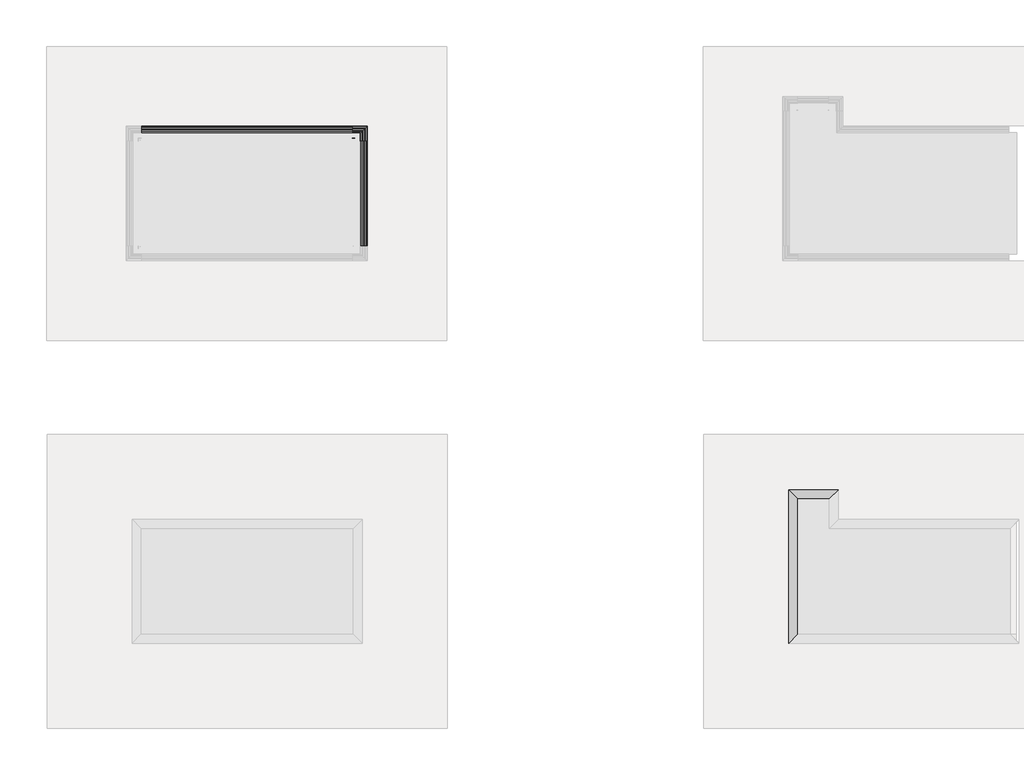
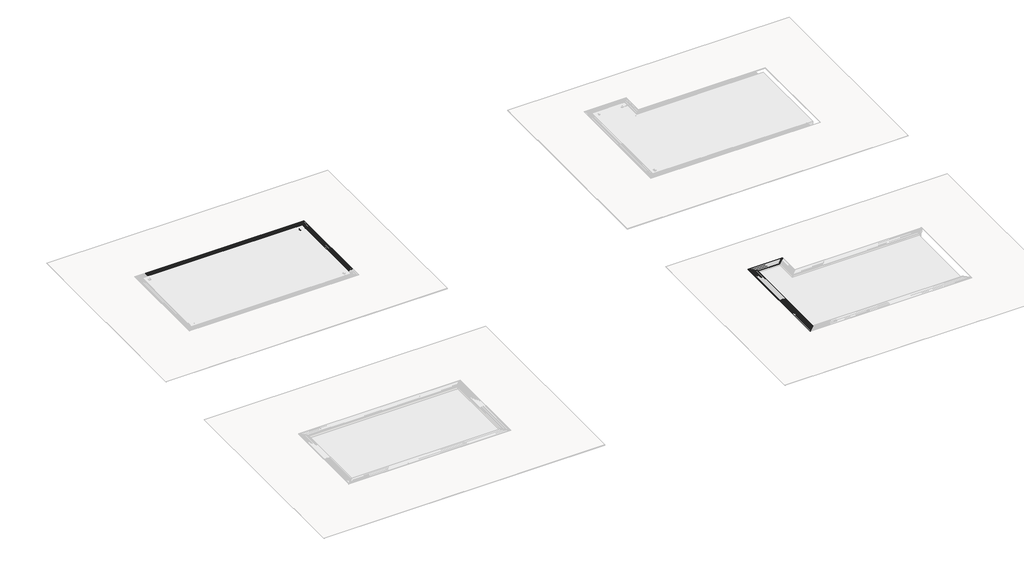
# One storey, part 4 of 8: 14 proxies.
"""IFC4 building model written with IfcOpenShell, lengths in millimetres."""

from ifc_helpers import new_model, si_unit, point, frame, frame_2d, origin, place, context, project, spatial, polyline, circle_curve, trimmed, segment, composite_curve, outline, extrude, faceted_brep, transform, mapped, element, save
from components import roca_polar_33x4cm_adeb31d8, roca_polar_33x4cm_c740a98f, roca_polar_33x4cm_f0a25715, roca_polar_4x4cm_b0f7cce5, roca_polar_angulo_33x33cm_rejilla_24_5x33cm_6b5bcf94

model = new_model("IFC4")

# Units and contexts
model_context = context("Model", 3, world=origin())
ifc_project = project(units=[si_unit("LENGTHUNIT", "METRE", prefix="MILLI")], contexts=[model_context])

# Site, building, storey
site = spatial("IfcSite", under=ifc_project)
building = spatial("IfcBuilding", under=site)
storey = spatial("IfcBuildingStorey", under=building, Name="EXAGRES_Serie ROCA POLAR_Piscinas_ejemplo", Elevation=14000.0)

# Proxies
placement = place(None, origin())
element("IfcBuildingElementProxy", 1, Name="Wall Sweeps", at=placement, inside=storey, context=model_context, shape_type="SweptSolid", body=[
    extrude(outline(composite_curve([segment(polyline([(-5147.8185886, 14015.0), (-5152.8185886, 14015.0)]), True, "CONTINUOUS"), segment(trimmed(circle_curve(frame_2d((-5152.8185886, 14000.0)), 15.0), [point((-5152.8185886, 14015.0))], [point((-5167.8185886, 14000.0))], True, "CARTESIAN"), True, "CONTINUOUS"), segment(polyline([(-5167.8185886, 14000.0), (-5227.8185886, 14000.0)]), True, "CONTINUOUS"), segment(trimmed(circle_curve(frame_2d((-5242.8185886, 14000.0)), 15.0), [point((-5227.8185886, 14000.0))], [point((-5242.8185886, 14015.0))], True, "CARTESIAN"), True, "CONTINUOUS"), segment(polyline([(-5242.8185886, 14015.0), (-5247.8185886, 14015.0)]), True, "CONTINUOUS"), segment(trimmed(circle_curve(frame_2d((-5247.8185886, 14000.0)), 15.0), [point((-5247.8185886, 14015.0))], [point((-5262.8185886, 14000.0))], True, "CARTESIAN"), True, "CONTINUOUS"), segment(polyline([(-5262.8185886, 14000.0), (-5323.3185886, 14000.0), (-5323.3185886, 14011.0)]), True, "CONTINUOUS"), segment(trimmed(circle_curve(frame_2d((-5327.0685886, 14011.0)), 3.75), [point((-5323.3185886, 14011.0))], [point((-5330.8185886, 14011.0))], True, "CARTESIAN"), True, "CONTINUOUS"), segment(polyline([(-5330.8185886, 14011.0), (-5330.8185886, 14000.0), (-5342.8185886, 14000.0), (-5342.8185886, 14015.0), (-5336.3185886, 14030.0), (-5296.8185886, 14030.0), (-5297.8185886, 14019.0), (-5302.8185886, 14019.0), (-5302.8185886, 14011.0), (-5282.8185886, 14011.0), (-5282.8185886, 14019.0), (-5287.8185886, 14019.0), (-5288.8185886, 14030.0), (-5249.3185886, 14030.0), (-5249.3185886, 14025.0), (-5241.3185886, 14025.0), (-5241.3185886, 14030.0), (-5201.8185886, 14030.0), (-5202.8185886, 14019.0), (-5207.8185886, 14019.0), (-5207.8185886, 14011.0), (-5187.8185886, 14011.0), (-5187.8185886, 14019.0), (-5192.8185886, 14019.0), (-5193.8185886, 14030.0), (-5154.3185886, 14030.0), (-5154.3185886, 14025.0), (-5146.3185886, 14025.0), (-5146.3185886, 14030.0), (-5106.8185886, 14030.0), (-5106.8185886, 14019.0), (-5125.3185886, 14019.0), (-5125.3185886, 14011.0), (-5102.8185886, 14011.0), (-5102.8185886, 14000.0), (-5132.8185886, 14000.0)]), True, "CONTINUOUS"), segment(trimmed(circle_curve(frame_2d((-5147.8185886, 14000.0)), 15.0), [point((-5132.8185886, 14000.0))], [point((-5147.8185886, 14015.0))], True, "CARTESIAN"), True, "CONTINUOUS")], self_intersect=False)), frame((-11634.1797103, 0.0, 0.0), z_axis=(1.0, 0.0, 0.0), x_axis=(0.0, 1.0, 0.0)), (0.0, 0.0, 1.0), 7952.2),
])
element("IfcBuildingElementProxy", 2, Name="Wall Sweeps", at=placement, inside=storey, context=model_context, shape_type="SweptSolid", body=[
    extrude(outline(polyline([(-5597.8185886, 13546.2592037), (-5597.8185886, 14000.0), (-5347.8185886, 14000.0), (-5347.8185886, 13750.0), (-5097.8185886, 13750.0), (-5097.8185886, 13644.7108891), (-5397.8185886, 13546.2592037), (-5597.8185886, 13546.2592037)])), frame((-11634.1797103, 0.0, 0.0), z_axis=(1.0, 0.0, 0.0), x_axis=(0.0, 1.0, 0.0)), (0.0, 0.0, 1.0), 7952.2),
])
element("IfcBuildingElementProxy", 3, Name="Wall Sweeps", at=placement, inside=storey, context=model_context, shape_type="SweptSolid", body=[
    extrude(outline(polyline([(13800.0, -3348.0797103), (14000.0, -3348.0797103), (14000.0, -3378.0797103), (13750.0, -3378.0797103), (13750.0, -3128.0797103), (14000.0, -3128.0797103), (14000.0, -3158.0797103), (13800.0, -3158.0797103), (13800.0, -3348.0797103)])), frame((0.0, -9603.9185886, 0.0), z_axis=(0.0, 1.0, 0.0), x_axis=(0.0, 0.0, 1.0)), (0.0, 0.0, 1.0), 3952.2),
])
element("IfcBuildingElementProxy", 4, Name="Wall Sweeps", at=placement, inside=storey, context=model_context, shape_type="SweptSolid", body=[
    extrude(outline(composite_curve([segment(trimmed(circle_curve(frame_2d((14000.0, -3178.0797103)), 15.0), [point((14015.0, -3178.0797103))], [point((14000.0, -3163.0797103))], True, "CARTESIAN"), True, "CONTINUOUS"), segment(polyline([(14000.0, -3163.0797103), (14000.0, -3133.0797103), (14011.0, -3133.0797103), (14011.0, -3155.5797103), (14019.0, -3155.5797103), (14019.0, -3137.0797103), (14030.0, -3137.0797103), (14030.0, -3176.5797103), (14025.0, -3176.5797103), (14025.0, -3184.5797103), (14030.0, -3184.5797103), (14030.0, -3224.0797103), (14019.0, -3223.0797103), (14019.0, -3218.0797103), (14011.0, -3218.0797103), (14011.0, -3238.0797103), (14019.0, -3238.0797103), (14019.0, -3233.0797103), (14030.0, -3232.0797103), (14030.0, -3271.5797103), (14025.0, -3271.5797103), (14025.0, -3279.5797103), (14030.0, -3279.5797103), (14030.0, -3319.0797103), (14019.0, -3318.0797103), (14019.0, -3313.0797103), (14011.0, -3313.0797103), (14011.0, -3333.0797103), (14019.0, -3333.0797103), (14019.0, -3328.0797103), (14030.0, -3327.0797103), (14030.0, -3366.5797103), (14015.0, -3373.0797103), (14000.0, -3373.0797103), (14000.0, -3361.0797103), (14011.0, -3361.0797103)]), True, "CONTINUOUS"), segment(trimmed(circle_curve(frame_2d((14011.0, -3357.3297103)), 3.75), [point((14011.0, -3361.0797103))], [point((14011.0, -3353.5797103))], True, "CARTESIAN"), True, "CONTINUOUS"), segment(polyline([(14011.0, -3353.5797103), (14000.0, -3353.5797103), (14000.0, -3293.0797103)]), True, "CONTINUOUS"), segment(trimmed(circle_curve(frame_2d((14000.0, -3278.0797103)), 15.0), [point((14000.0, -3293.0797103))], [point((14015.0, -3278.0797103))], True, "CARTESIAN"), True, "CONTINUOUS"), segment(polyline([(14015.0, -3278.0797103), (14015.0, -3273.0797103)]), True, "CONTINUOUS"), segment(trimmed(circle_curve(frame_2d((14000.0, -3273.0797103)), 15.0), [point((14015.0, -3273.0797103))], [point((14000.0, -3258.0797103))], True, "CARTESIAN"), True, "CONTINUOUS"), segment(polyline([(14000.0, -3258.0797103), (14000.0, -3198.0797103)]), True, "CONTINUOUS"), segment(trimmed(circle_curve(frame_2d((14000.0, -3183.0797103)), 15.0), [point((14000.0, -3198.0797103))], [point((14015.0, -3183.0797103))], True, "CARTESIAN"), True, "CONTINUOUS"), segment(polyline([(14015.0, -3183.0797103), (14015.0, -3178.0797103)]), True, "CONTINUOUS")], self_intersect=False)), frame((0.0, -9603.9185886, 0.0), z_axis=(0.0, 1.0, 0.0), x_axis=(0.0, 0.0, 1.0)), (0.0, 0.0, 1.0), 3952.2),
])
element("IfcBuildingElementProxy", 5, Name="Wall Sweeps", at=placement, inside=storey, context=model_context, shape_type="SweptSolid", body=[
    extrude(outline(polyline([(13546.2592037, -3628.0797103), (13546.2592037, -3428.0797103), (13644.7108891, -3128.0797103), (13750.0, -3128.0797103), (13750.0, -3378.0797103), (14000.0, -3378.0797103), (14000.0, -3628.0797103), (13546.2592037, -3628.0797103)])), frame((0.0, -9603.9185886, 0.0), z_axis=(0.0, 1.0, 0.0), x_axis=(0.0, 0.0, 1.0)), (0.0, 0.0, 1.0), 3952.2),
])
element("IfcBuildingElementProxy", 6, Name="Wall Sweeps", at=placement, inside=storey, context=model_context, shape_type="Brep", body=[
    faceted_brep([(13046.9426749, -24249.0914606, 14000.0), (13059.9426749, -24236.0914606, 14000.0), (13059.9426749, -24236.0914606, 14033.0), (12729.9426749, -24566.0914606, 14033.0), (12729.9426749, -24566.0914606, 14021.0), (12735.9426749, -24560.0914606, 14021.0), (12735.9426749, -24560.0914606, 14022.0), (12739.9426749, -24556.0914606, 14022.0), (12739.9426749, -24556.0914606, 14021.0), (12745.9426749, -24550.0914606, 14021.0), (12745.9426749, -24550.0914606, 14022.0), (12749.9426749, -24546.0914606, 14022.0), (12749.9426749, -24546.0914606, 14021.0), (12755.9426749, -24540.0914606, 14021.0), (12755.9426749, -24540.0914606, 14022.0), (12759.9426749, -24536.0914606, 14022.0), (12759.9426749, -24536.0914606, 14021.0), (12765.9426749, -24530.0914606, 14021.0), (12765.9426749, -24530.0914606, 14022.0), (12769.9426749, -24526.0914606, 14022.0), (12769.9426749, -24526.0914606, 14021.0), (12775.9426749, -24520.0914606, 14021.0), (12775.9426749, -24520.0914606, 14022.0), (12779.9426749, -24516.0914606, 14022.0), (12779.9426749, -24516.0914606, 14021.0), (12785.9426749, -24510.0914606, 14021.0), (12785.9426749, -24510.0914606, 14022.0), (12789.9426749, -24506.0914606, 14022.0), (12789.9426749, -24506.0914606, 14021.0), (12795.9426749, -24500.0914606, 14021.0), (12795.9426749, -24500.0914606, 14022.0), (12799.9426749, -24496.0914606, 14022.0), (12799.9426749, -24496.0914606, 14021.0), (12805.9426749, -24490.0914606, 14021.0), (12805.9426749, -24490.0914606, 14022.0), (12809.9426749, -24486.0914606, 14022.0), (12809.9426749, -24486.0914606, 14021.0), (12815.9426749, -24480.0914606, 14021.0), (12815.9426749, -24480.0914606, 14022.0), (12819.9426749, -24476.0914606, 14022.0), (12819.9426749, -24476.0914606, 14021.0), (12825.9426749, -24470.0914606, 14021.0), (12825.9426749, -24470.0914606, 14022.0), (12829.9426749, -24466.0914606, 14022.0), (12829.9426749, -24466.0914606, 14021.0), (12835.9426749, -24460.0914606, 14021.0), (12835.9426749, -24460.0914606, 14022.0), (12839.9426749, -24456.0914606, 14022.0), (12839.9426749, -24456.0914606, 14021.0), (12845.9426749, -24450.0914606, 14021.0), (12845.9426749, -24450.0914606, 14022.0), (12849.9426749, -24446.0914606, 14022.0), (12849.9426749, -24446.0914606, 14021.0), (12855.9426749, -24440.0914606, 14021.0), (12855.9426749, -24440.0914606, 14022.0), (12859.9426749, -24436.0914606, 14022.0), (12859.9426749, -24436.0914606, 14021.0), (12865.9426749, -24430.0914606, 14021.0), (12865.9426749, -24430.0914606, 14022.0), (12869.9426749, -24426.0914606, 14022.0), (12869.9426749, -24426.0914606, 14021.0), (12875.9426749, -24420.0914606, 14021.0), (12875.9426749, -24420.0914606, 14022.0), (12879.9426749, -24416.0914606, 14022.0), (12879.9426749, -24416.0914606, 14021.0), (12885.9426749, -24410.0914606, 14021.0), (12885.9426749, -24410.0914606, 14022.0), (12889.9426749, -24406.0914606, 14022.0), (12889.9426749, -24406.0914606, 14021.0), (12895.9426749, -24400.0914606, 14021.0), (12895.9426749, -24400.0914606, 14022.0), (12899.9426749, -24396.0914606, 14022.0), (12899.9426749, -24396.0914606, 14021.0), (12905.9426749, -24390.0914606, 14021.0), (12905.9426749, -24390.0914606, 14022.0), (12909.9426749, -24386.0914606, 14022.0), (12909.9426749, -24386.0914606, 14021.0), (12915.9426749, -24380.0914606, 14021.0), (12915.9426749, -24380.0914606, 14022.0), (12919.9426749, -24376.0914606, 14022.0), (12919.9426749, -24376.0914606, 14021.0), (12925.9426749, -24370.0914606, 14021.0), (12925.9426749, -24370.0914606, 14022.0), (12929.9426749, -24366.0914606, 14022.0), (12929.9426749, -24366.0914606, 14021.0), (12935.9426749, -24360.0914606, 14021.0), (12935.9426749, -24360.0914606, 14022.0), (12939.9426749, -24356.0914606, 14022.0), (12939.9426749, -24356.0914606, 14021.0), (12945.9426749, -24350.0914606, 14021.0), (12945.9426749, -24350.0914606, 14022.0), (12949.9426749, -24346.0914606, 14022.0), (12949.9426749, -24346.0914606, 14021.0), (12955.9426749, -24340.0914606, 14021.0), (12955.9426749, -24340.0914606, 14022.0), (12959.9426749, -24336.0914606, 14022.0), (12959.9426749, -24336.0914606, 14021.0), (12965.9426749, -24330.0914606, 14021.0), (12965.9426749, -24330.0914606, 14022.0), (12969.9426749, -24326.0914606, 14022.0), (12969.9426749, -24326.0914606, 14021.0), (12975.9426749, -24320.0914606, 14021.0), (12975.9426749, -24320.0914606, 14022.0), (12979.9426749, -24316.0914606, 14022.0), (12979.9426749, -24316.0914606, 14021.0), (12985.9426749, -24310.0914606, 14021.0), (12985.9426749, -24310.0914606, 14022.0), (12989.9426749, -24306.0914606, 14022.0), (12989.9426749, -24306.0914606, 14021.0), (12995.9426749, -24300.0914606, 14021.0), (12995.9426749, -24300.0914606, 14022.0), (12999.9426749, -24296.0914606, 14022.0), (12999.9426749, -24296.0914606, 14021.0), (13005.9426749, -24290.0914606, 14021.0), (13005.9426749, -24290.0914606, 14022.0), (13009.9426749, -24286.0914606, 14022.0), (13009.9426749, -24286.0914606, 14021.0), (13015.9426749, -24280.0914606, 14021.0), (13015.9426749, -24280.0914606, 14022.0), (13019.9426749, -24276.0914606, 14022.0), (13019.9426749, -24276.0914606, 14021.0), (13025.9426749, -24270.0914606, 14021.0), (13025.9426749, -24270.0914606, 14022.0), (13029.9426749, -24266.0914606, 14022.0), (13029.9426749, -24266.0914606, 14021.0), (13035.9426749, -24260.0914606, 14021.0), (13035.9426749, -24260.0914606, 14022.0), (13039.9426749, -24256.0914606, 14022.0), (13039.9426749, -24256.0914606, 14021.0), (13046.9426749, -24249.0914606, 14021.0), (13046.9426749, -24249.0914606, 14014.0), (13047.9426749, -24248.0914606, 14014.0), (13047.9426749, -24248.0914606, 14008.0), (13046.9426749, -24249.0914606, 14008.0), (13046.9426749, -19103.0914606, 14000.0), (13046.9426749, -19103.0914606, 14008.0), (13047.9426749, -19104.0914606, 14008.0), (13047.9426749, -19104.0914606, 14014.0), (13046.9426749, -19103.0914606, 14014.0), (13046.9426749, -19103.0914606, 14021.0), (13039.9426749, -19096.0914606, 14021.0), (13039.9426749, -19096.0914606, 14022.0), (13035.9426749, -19092.0914606, 14022.0), (13035.9426749, -19092.0914606, 14021.0), (13029.9426749, -19086.0914606, 14021.0), (13029.9426749, -19086.0914606, 14022.0), (13025.9426749, -19082.0914606, 14022.0), (13025.9426749, -19082.0914606, 14021.0), (13019.9426749, -19076.0914606, 14021.0), (13019.9426749, -19076.0914606, 14022.0), (13015.9426749, -19072.0914606, 14022.0), (13015.9426749, -19072.0914606, 14021.0), (13009.9426749, -19066.0914606, 14021.0), (13009.9426749, -19066.0914606, 14022.0), (13005.9426749, -19062.0914606, 14022.0), (13005.9426749, -19062.0914606, 14021.0), (12999.9426749, -19056.0914606, 14021.0), (12999.9426749, -19056.0914606, 14022.0), (12995.9426749, -19052.0914606, 14022.0), (12995.9426749, -19052.0914606, 14021.0), (12989.9426749, -19046.0914606, 14021.0), (12989.9426749, -19046.0914606, 14022.0), (12985.9426749, -19042.0914606, 14022.0), (12985.9426749, -19042.0914606, 14021.0), (12979.9426749, -19036.0914606, 14021.0), (12979.9426749, -19036.0914606, 14022.0), (12975.9426749, -19032.0914606, 14022.0), (12975.9426749, -19032.0914606, 14021.0), (12969.9426749, -19026.0914606, 14021.0), (12969.9426749, -19026.0914606, 14022.0), (12965.9426749, -19022.0914606, 14022.0), (12965.9426749, -19022.0914606, 14021.0), (12959.9426749, -19016.0914606, 14021.0), (12959.9426749, -19016.0914606, 14022.0), (12955.9426749, -19012.0914606, 14022.0), (12955.9426749, -19012.0914606, 14021.0), (12949.9426749, -19006.0914606, 14021.0), (12949.9426749, -19006.0914606, 14022.0), (12945.9426749, -19002.0914606, 14022.0), (12945.9426749, -19002.0914606, 14021.0), (12939.9426749, -18996.0914606, 14021.0), (12939.9426749, -18996.0914606, 14022.0), (12935.9426749, -18992.0914606, 14022.0), (12935.9426749, -18992.0914606, 14021.0), (12929.9426749, -18986.0914606, 14021.0), (12929.9426749, -18986.0914606, 14022.0), (12925.9426749, -18982.0914606, 14022.0), (12925.9426749, -18982.0914606, 14021.0), (12919.9426749, -18976.0914606, 14021.0), (12919.9426749, -18976.0914606, 14022.0), (12915.9426749, -18972.0914606, 14022.0), (12915.9426749, -18972.0914606, 14021.0), (12909.9426749, -18966.0914606, 14021.0), (12909.9426749, -18966.0914606, 14022.0), (12905.9426749, -18962.0914606, 14022.0), (12905.9426749, -18962.0914606, 14021.0), (12899.9426749, -18956.0914606, 14021.0), (12899.9426749, -18956.0914606, 14022.0), (12895.9426749, -18952.0914606, 14022.0), (12895.9426749, -18952.0914606, 14021.0), (12889.9426749, -18946.0914606, 14021.0), (12889.9426749, -18946.0914606, 14022.0), (12885.9426749, -18942.0914606, 14022.0), (12885.9426749, -18942.0914606, 14021.0), (12879.9426749, -18936.0914606, 14021.0), (12879.9426749, -18936.0914606, 14022.0), (12875.9426749, -18932.0914606, 14022.0), (12875.9426749, -18932.0914606, 14021.0), (12869.9426749, -18926.0914606, 14021.0), (12869.9426749, -18926.0914606, 14022.0), (12865.9426749, -18922.0914606, 14022.0), (12865.9426749, -18922.0914606, 14021.0), (12859.9426749, -18916.0914606, 14021.0), (12859.9426749, -18916.0914606, 14022.0), (12855.9426749, -18912.0914606, 14022.0), (12855.9426749, -18912.0914606, 14021.0), (12849.9426749, -18906.0914606, 14021.0), (12849.9426749, -18906.0914606, 14022.0), (12845.9426749, -18902.0914606, 14022.0), (12845.9426749, -18902.0914606, 14021.0), (12839.9426749, -18896.0914606, 14021.0), (12839.9426749, -18896.0914606, 14022.0), (12835.9426749, -18892.0914606, 14022.0), (12835.9426749, -18892.0914606, 14021.0), (12829.9426749, -18886.0914606, 14021.0), (12829.9426749, -18886.0914606, 14022.0), (12825.9426749, -18882.0914606, 14022.0), (12825.9426749, -18882.0914606, 14021.0), (12819.9426749, -18876.0914606, 14021.0), (12819.9426749, -18876.0914606, 14022.0), (12815.9426749, -18872.0914606, 14022.0), (12815.9426749, -18872.0914606, 14021.0), (12809.9426749, -18866.0914606, 14021.0), (12809.9426749, -18866.0914606, 14022.0), (12805.9426749, -18862.0914606, 14022.0), (12805.9426749, -18862.0914606, 14021.0), (12799.9426749, -18856.0914606, 14021.0), (12799.9426749, -18856.0914606, 14022.0), (12795.9426749, -18852.0914606, 14022.0), (12795.9426749, -18852.0914606, 14021.0), (12789.9426749, -18846.0914606, 14021.0), (12789.9426749, -18846.0914606, 14022.0), (12785.9426749, -18842.0914606, 14022.0), (12785.9426749, -18842.0914606, 14021.0), (12779.9426749, -18836.0914606, 14021.0), (12779.9426749, -18836.0914606, 14022.0), (12775.9426749, -18832.0914606, 14022.0), (12775.9426749, -18832.0914606, 14021.0), (12769.9426749, -18826.0914606, 14021.0), (12769.9426749, -18826.0914606, 14022.0), (12765.9426749, -18822.0914606, 14022.0), (12765.9426749, -18822.0914606, 14021.0), (12759.9426749, -18816.0914606, 14021.0), (12759.9426749, -18816.0914606, 14022.0), (12755.9426749, -18812.0914606, 14022.0), (12755.9426749, -18812.0914606, 14021.0), (12749.9426749, -18806.0914606, 14021.0), (12749.9426749, -18806.0914606, 14022.0), (12745.9426749, -18802.0914606, 14022.0), (12745.9426749, -18802.0914606, 14021.0), (12739.9426749, -18796.0914606, 14021.0), (12739.9426749, -18796.0914606, 14022.0), (12735.9426749, -18792.0914606, 14022.0), (12735.9426749, -18792.0914606, 14021.0), (12729.9426749, -18786.0914606, 14021.0), (12729.9426749, -18786.0914606, 14033.0), (13059.9426749, -19116.0914606, 14033.0), (13059.9426749, -19116.0914606, 14000.0)], [[[0, 1, 2, 3, 4, 5, 6, 7, 8, 9, 10, 11, 12, 13, 14, 15, 16, 17, 18, 19, 20, 21, 22, 23, 24, 25, 26, 27, 28, 29, 30, 31, 32, 33, 34, 35, 36, 37, 38, 39, 40, 41, 42, 43, 44, 45, 46, 47, 48, 49, 50, 51, 52, 53, 54, 55, 56, 57, 58, 59, 60, 61, 62, 63, 64, 65, 66, 67, 68, 69, 70, 71, 72, 73, 74, 75, 76, 77, 78, 79, 80, 81, 82, 83, 84, 85, 86, 87, 88, 89, 90, 91, 92, 93, 94, 95, 96, 97, 98, 99, 100, 101, 102, 103, 104, 105, 106, 107, 108, 109, 110, 111, 112, 113, 114, 115, 116, 117, 118, 119, 120, 121, 122, 123, 124, 125, 126, 127, 128, 129, 130, 131, 132, 133]], [[134, 135, 136, 137, 138, 139, 140, 141, 142, 143, 144, 145, 146, 147, 148, 149, 150, 151, 152, 153, 154, 155, 156, 157, 158, 159, 160, 161, 162, 163, 164, 165, 166, 167, 168, 169, 170, 171, 172, 173, 174, 175, 176, 177, 178, 179, 180, 181, 182, 183, 184, 185, 186, 187, 188, 189, 190, 191, 192, 193, 194, 195, 196, 197, 198, 199, 200, 201, 202, 203, 204, 205, 206, 207, 208, 209, 210, 211, 212, 213, 214, 215, 216, 217, 218, 219, 220, 221, 222, 223, 224, 225, 226, 227, 228, 229, 230, 231, 232, 233, 234, 235, 236, 237, 238, 239, 240, 241, 242, 243, 244, 245, 246, 247, 248, 249, 250, 251, 252, 253, 254, 255, 256, 257, 258, 259, 260, 261, 262, 263, 264, 265, 266, 267]], [[1, 0, 134, 267]], [[2, 1, 267, 266]], [[3, 2, 266, 265]], [[4, 3, 265, 264]], [[5, 4, 264, 263]], [[6, 5, 263, 262]], [[7, 6, 262, 261]], [[8, 7, 261, 260]], [[9, 8, 260, 259]], [[10, 9, 259, 258]], [[11, 10, 258, 257]], [[12, 11, 257, 256]], [[13, 12, 256, 255]], [[14, 13, 255, 254]], [[15, 14, 254, 253]], [[16, 15, 253, 252]], [[17, 16, 252, 251]], [[18, 17, 251, 250]], [[19, 18, 250, 249]], [[20, 19, 249, 248]], [[21, 20, 248, 247]], [[22, 21, 247, 246]], [[23, 22, 246, 245]], [[24, 23, 245, 244]], [[25, 24, 244, 243]], [[26, 25, 243, 242]], [[27, 26, 242, 241]], [[28, 27, 241, 240]], [[29, 28, 240, 239]], [[30, 29, 239, 238]], [[31, 30, 238, 237]], [[32, 31, 237, 236]], [[33, 32, 236, 235]], [[34, 33, 235, 234]], [[35, 34, 234, 233]], [[36, 35, 233, 232]], [[37, 36, 232, 231]], [[38, 37, 231, 230]], [[39, 38, 230, 229]], [[40, 39, 229, 228]], [[41, 40, 228, 227]], [[42, 41, 227, 226]], [[43, 42, 226, 225]], [[44, 43, 225, 224]], [[45, 44, 224, 223]], [[46, 45, 223, 222]], [[47, 46, 222, 221]], [[48, 47, 221, 220]], [[49, 48, 220, 219]], [[50, 49, 219, 218]], [[51, 50, 218, 217]], [[52, 51, 217, 216]], [[53, 52, 216, 215]], [[54, 53, 215, 214]], [[55, 54, 214, 213]], [[56, 55, 213, 212]], [[57, 56, 212, 211]], [[58, 57, 211, 210]], [[59, 58, 210, 209]], [[60, 59, 209, 208]], [[61, 60, 208, 207]], [[62, 61, 207, 206]], [[63, 62, 206, 205]], [[64, 63, 205, 204]], [[65, 64, 204, 203]], [[66, 65, 203, 202]], [[67, 66, 202, 201]], [[68, 67, 201, 200]], [[69, 68, 200, 199]], [[70, 69, 199, 198]], [[71, 70, 198, 197]], [[72, 71, 197, 196]], [[73, 72, 196, 195]], [[74, 73, 195, 194]], [[75, 74, 194, 193]], [[76, 75, 193, 192]], [[77, 76, 192, 191]], [[78, 77, 191, 190]], [[79, 78, 190, 189]], [[80, 79, 189, 188]], [[81, 80, 188, 187]], [[82, 81, 187, 186]], [[83, 82, 186, 185]], [[84, 83, 185, 184]], [[85, 84, 184, 183]], [[86, 85, 183, 182]], [[87, 86, 182, 181]], [[88, 87, 181, 180]], [[89, 88, 180, 179]], [[90, 89, 179, 178]], [[91, 90, 178, 177]], [[92, 91, 177, 176]], [[93, 92, 176, 175]], [[94, 93, 175, 174]], [[95, 94, 174, 173]], [[96, 95, 173, 172]], [[97, 96, 172, 171]], [[98, 97, 171, 170]], [[99, 98, 170, 169]], [[100, 99, 169, 168]], [[101, 100, 168, 167]], [[102, 101, 167, 166]], [[103, 102, 166, 165]], [[104, 103, 165, 164]], [[105, 104, 164, 163]], [[106, 105, 163, 162]], [[107, 106, 162, 161]], [[108, 107, 161, 160]], [[109, 108, 160, 159]], [[110, 109, 159, 158]], [[111, 110, 158, 157]], [[112, 111, 157, 156]], [[113, 112, 156, 155]], [[114, 113, 155, 154]], [[115, 114, 154, 153]], [[116, 115, 153, 152]], [[117, 116, 152, 151]], [[118, 117, 151, 150]], [[119, 118, 150, 149]], [[120, 119, 149, 148]], [[121, 120, 148, 147]], [[122, 121, 147, 146]], [[123, 122, 146, 145]], [[124, 123, 145, 144]], [[125, 124, 144, 143]], [[126, 125, 143, 142]], [[127, 126, 142, 141]], [[128, 127, 141, 140]], [[129, 128, 140, 139]], [[130, 129, 139, 138]], [[131, 130, 138, 137]], [[132, 131, 137, 136]], [[133, 132, 136, 135]], [[0, 133, 135, 134]]]),
])
element("IfcBuildingElementProxy", 7, Name="Wall Sweeps", at=placement, inside=storey, context=model_context, shape_type="Brep", body=[
    faceted_brep([(12739.9426749, -24556.0914606, 13818.74), (12834.9426749, -24461.0914606, 13818.74), (13044.9426749, -24251.0914606, 13818.74), (13044.9426749, -24251.0914606, 14000.0), (13044.9426749, -24251.0914606, 14018.74), (12739.9426749, -24556.0914606, 14018.74), (12739.9426749, -18796.0914606, 13818.74), (12739.9426749, -18796.0914606, 14018.74), (13044.9426749, -19101.0914606, 14018.74), (13044.9426749, -19101.0914606, 14000.0), (13044.9426749, -19101.0914606, 13818.74), (12834.9426749, -18891.0914606, 13818.74)], [[[0, 1, 2, 3, 4, 5]], [[6, 7, 8, 9, 10, 11]], [[4, 3, 2, 10, 9, 8]], [[2, 1, 0, 6, 11, 10]], [[5, 4, 8, 7]], [[0, 5, 7, 6]]]),
])
element("IfcBuildingElementProxy", 8, Name="Wall Sweeps", at=placement, inside=storey, context=model_context, shape_type="Brep", body=[
    faceted_brep([(13046.9426749, -19103.0914606, 14000.0), (13059.9426749, -19116.0914606, 14000.0), (13059.9426749, -19116.0914606, 14033.0), (12729.9426749, -18786.0914606, 14033.0), (12729.9426749, -18786.0914606, 14021.0), (12735.9426749, -18792.0914606, 14021.0), (12735.9426749, -18792.0914606, 14022.0), (12739.9426749, -18796.0914606, 14022.0), (12739.9426749, -18796.0914606, 14021.0), (12745.9426749, -18802.0914606, 14021.0), (12745.9426749, -18802.0914606, 14022.0), (12749.9426749, -18806.0914606, 14022.0), (12749.9426749, -18806.0914606, 14021.0), (12755.9426749, -18812.0914606, 14021.0), (12755.9426749, -18812.0914606, 14022.0), (12759.9426749, -18816.0914606, 14022.0), (12759.9426749, -18816.0914606, 14021.0), (12765.9426749, -18822.0914606, 14021.0), (12765.9426749, -18822.0914606, 14022.0), (12769.9426749, -18826.0914606, 14022.0), (12769.9426749, -18826.0914606, 14021.0), (12775.9426749, -18832.0914606, 14021.0), (12775.9426749, -18832.0914606, 14022.0), (12779.9426749, -18836.0914606, 14022.0), (12779.9426749, -18836.0914606, 14021.0), (12785.9426749, -18842.0914606, 14021.0), (12785.9426749, -18842.0914606, 14022.0), (12789.9426749, -18846.0914606, 14022.0), (12789.9426749, -18846.0914606, 14021.0), (12795.9426749, -18852.0914606, 14021.0), (12795.9426749, -18852.0914606, 14022.0), (12799.9426749, -18856.0914606, 14022.0), (12799.9426749, -18856.0914606, 14021.0), (12805.9426749, -18862.0914606, 14021.0), (12805.9426749, -18862.0914606, 14022.0), (12809.9426749, -18866.0914606, 14022.0), (12809.9426749, -18866.0914606, 14021.0), (12815.9426749, -18872.0914606, 14021.0), (12815.9426749, -18872.0914606, 14022.0), (12819.9426749, -18876.0914606, 14022.0), (12819.9426749, -18876.0914606, 14021.0), (12825.9426749, -18882.0914606, 14021.0), (12825.9426749, -18882.0914606, 14022.0), (12829.9426749, -18886.0914606, 14022.0), (12829.9426749, -18886.0914606, 14021.0), (12835.9426749, -18892.0914606, 14021.0), (12835.9426749, -18892.0914606, 14022.0), (12839.9426749, -18896.0914606, 14022.0), (12839.9426749, -18896.0914606, 14021.0), (12845.9426749, -18902.0914606, 14021.0), (12845.9426749, -18902.0914606, 14022.0), (12849.9426749, -18906.0914606, 14022.0), (12849.9426749, -18906.0914606, 14021.0), (12855.9426749, -18912.0914606, 14021.0), (12855.9426749, -18912.0914606, 14022.0), (12859.9426749, -18916.0914606, 14022.0), (12859.9426749, -18916.0914606, 14021.0), (12865.9426749, -18922.0914606, 14021.0), (12865.9426749, -18922.0914606, 14022.0), (12869.9426749, -18926.0914606, 14022.0), (12869.9426749, -18926.0914606, 14021.0), (12875.9426749, -18932.0914606, 14021.0), (12875.9426749, -18932.0914606, 14022.0), (12879.9426749, -18936.0914606, 14022.0), (12879.9426749, -18936.0914606, 14021.0), (12885.9426749, -18942.0914606, 14021.0), (12885.9426749, -18942.0914606, 14022.0), (12889.9426749, -18946.0914606, 14022.0), (12889.9426749, -18946.0914606, 14021.0), (12895.9426749, -18952.0914606, 14021.0), (12895.9426749, -18952.0914606, 14022.0), (12899.9426749, -18956.0914606, 14022.0), (12899.9426749, -18956.0914606, 14021.0), (12905.9426749, -18962.0914606, 14021.0), (12905.9426749, -18962.0914606, 14022.0), (12909.9426749, -18966.0914606, 14022.0), (12909.9426749, -18966.0914606, 14021.0), (12915.9426749, -18972.0914606, 14021.0), (12915.9426749, -18972.0914606, 14022.0), (12919.9426749, -18976.0914606, 14022.0), (12919.9426749, -18976.0914606, 14021.0), (12925.9426749, -18982.0914606, 14021.0), (12925.9426749, -18982.0914606, 14022.0), (12929.9426749, -18986.0914606, 14022.0), (12929.9426749, -18986.0914606, 14021.0), (12935.9426749, -18992.0914606, 14021.0), (12935.9426749, -18992.0914606, 14022.0), (12939.9426749, -18996.0914606, 14022.0), (12939.9426749, -18996.0914606, 14021.0), (12945.9426749, -19002.0914606, 14021.0), (12945.9426749, -19002.0914606, 14022.0), (12949.9426749, -19006.0914606, 14022.0), (12949.9426749, -19006.0914606, 14021.0), (12955.9426749, -19012.0914606, 14021.0), (12955.9426749, -19012.0914606, 14022.0), (12959.9426749, -19016.0914606, 14022.0), (12959.9426749, -19016.0914606, 14021.0), (12965.9426749, -19022.0914606, 14021.0), (12965.9426749, -19022.0914606, 14022.0), (12969.9426749, -19026.0914606, 14022.0), (12969.9426749, -19026.0914606, 14021.0), (12975.9426749, -19032.0914606, 14021.0), (12975.9426749, -19032.0914606, 14022.0), (12979.9426749, -19036.0914606, 14022.0), (12979.9426749, -19036.0914606, 14021.0), (12985.9426749, -19042.0914606, 14021.0), (12985.9426749, -19042.0914606, 14022.0), (12989.9426749, -19046.0914606, 14022.0), (12989.9426749, -19046.0914606, 14021.0), (12995.9426749, -19052.0914606, 14021.0), (12995.9426749, -19052.0914606, 14022.0), (12999.9426749, -19056.0914606, 14022.0), (12999.9426749, -19056.0914606, 14021.0), (13005.9426749, -19062.0914606, 14021.0), (13005.9426749, -19062.0914606, 14022.0), (13009.9426749, -19066.0914606, 14022.0), (13009.9426749, -19066.0914606, 14021.0), (13015.9426749, -19072.0914606, 14021.0), (13015.9426749, -19072.0914606, 14022.0), (13019.9426749, -19076.0914606, 14022.0), (13019.9426749, -19076.0914606, 14021.0), (13025.9426749, -19082.0914606, 14021.0), (13025.9426749, -19082.0914606, 14022.0), (13029.9426749, -19086.0914606, 14022.0), (13029.9426749, -19086.0914606, 14021.0), (13035.9426749, -19092.0914606, 14021.0), (13035.9426749, -19092.0914606, 14022.0), (13039.9426749, -19096.0914606, 14022.0), (13039.9426749, -19096.0914606, 14021.0), (13046.9426749, -19103.0914606, 14021.0), (13046.9426749, -19103.0914606, 14014.0), (13047.9426749, -19104.0914606, 14014.0), (13047.9426749, -19104.0914606, 14008.0), (13046.9426749, -19103.0914606, 14008.0), (14272.9426749, -19103.0914606, 14000.0), (14272.9426749, -19103.0914606, 14008.0), (14271.9426749, -19104.0914606, 14008.0), (14271.9426749, -19104.0914606, 14014.0), (14272.9426749, -19103.0914606, 14014.0), (14272.9426749, -19103.0914606, 14021.0), (14279.9426749, -19096.0914606, 14021.0), (14279.9426749, -19096.0914606, 14022.0), (14283.9426749, -19092.0914606, 14022.0), (14283.9426749, -19092.0914606, 14021.0), (14289.9426749, -19086.0914606, 14021.0), (14289.9426749, -19086.0914606, 14022.0), (14293.9426749, -19082.0914606, 14022.0), (14293.9426749, -19082.0914606, 14021.0), (14299.9426749, -19076.0914606, 14021.0), (14299.9426749, -19076.0914606, 14022.0), (14303.9426749, -19072.0914606, 14022.0), (14303.9426749, -19072.0914606, 14021.0), (14309.9426749, -19066.0914606, 14021.0), (14309.9426749, -19066.0914606, 14022.0), (14313.9426749, -19062.0914606, 14022.0), (14313.9426749, -19062.0914606, 14021.0), (14319.9426749, -19056.0914606, 14021.0), (14319.9426749, -19056.0914606, 14022.0), (14323.9426749, -19052.0914606, 14022.0), (14323.9426749, -19052.0914606, 14021.0), (14329.9426749, -19046.0914606, 14021.0), (14329.9426749, -19046.0914606, 14022.0), (14333.9426749, -19042.0914606, 14022.0), (14333.9426749, -19042.0914606, 14021.0), (14339.9426749, -19036.0914606, 14021.0), (14339.9426749, -19036.0914606, 14022.0), (14343.9426749, -19032.0914606, 14022.0), (14343.9426749, -19032.0914606, 14021.0), (14349.9426749, -19026.0914606, 14021.0), (14349.9426749, -19026.0914606, 14022.0), (14353.9426749, -19022.0914606, 14022.0), (14353.9426749, -19022.0914606, 14021.0), (14359.9426749, -19016.0914606, 14021.0), (14359.9426749, -19016.0914606, 14022.0), (14363.9426749, -19012.0914606, 14022.0), (14363.9426749, -19012.0914606, 14021.0), (14369.9426749, -19006.0914606, 14021.0), (14369.9426749, -19006.0914606, 14022.0), (14373.9426749, -19002.0914606, 14022.0), (14373.9426749, -19002.0914606, 14021.0), (14379.9426749, -18996.0914606, 14021.0), (14379.9426749, -18996.0914606, 14022.0), (14383.9426749, -18992.0914606, 14022.0), (14383.9426749, -18992.0914606, 14021.0), (14389.9426749, -18986.0914606, 14021.0), (14389.9426749, -18986.0914606, 14022.0), (14393.9426749, -18982.0914606, 14022.0), (14393.9426749, -18982.0914606, 14021.0), (14399.9426749, -18976.0914606, 14021.0), (14399.9426749, -18976.0914606, 14022.0), (14403.9426749, -18972.0914606, 14022.0), (14403.9426749, -18972.0914606, 14021.0), (14409.9426749, -18966.0914606, 14021.0), (14409.9426749, -18966.0914606, 14022.0), (14413.9426749, -18962.0914606, 14022.0), (14413.9426749, -18962.0914606, 14021.0), (14419.9426749, -18956.0914606, 14021.0), (14419.9426749, -18956.0914606, 14022.0), (14423.9426749, -18952.0914606, 14022.0), (14423.9426749, -18952.0914606, 14021.0), (14429.9426749, -18946.0914606, 14021.0), (14429.9426749, -18946.0914606, 14022.0), (14433.9426749, -18942.0914606, 14022.0), (14433.9426749, -18942.0914606, 14021.0), (14439.9426749, -18936.0914606, 14021.0), (14439.9426749, -18936.0914606, 14022.0), (14443.9426749, -18932.0914606, 14022.0), (14443.9426749, -18932.0914606, 14021.0), (14449.9426749, -18926.0914606, 14021.0), (14449.9426749, -18926.0914606, 14022.0), (14453.9426749, -18922.0914606, 14022.0), (14453.9426749, -18922.0914606, 14021.0), (14459.9426749, -18916.0914606, 14021.0), (14459.9426749, -18916.0914606, 14022.0), (14463.9426749, -18912.0914606, 14022.0), (14463.9426749, -18912.0914606, 14021.0), (14469.9426749, -18906.0914606, 14021.0), (14469.9426749, -18906.0914606, 14022.0), (14473.9426749, -18902.0914606, 14022.0), (14473.9426749, -18902.0914606, 14021.0), (14479.9426749, -18896.0914606, 14021.0), (14479.9426749, -18896.0914606, 14022.0), (14483.9426749, -18892.0914606, 14022.0), (14483.9426749, -18892.0914606, 14021.0), (14489.9426749, -18886.0914606, 14021.0), (14489.9426749, -18886.0914606, 14022.0), (14493.9426749, -18882.0914606, 14022.0), (14493.9426749, -18882.0914606, 14021.0), (14499.9426749, -18876.0914606, 14021.0), (14499.9426749, -18876.0914606, 14022.0), (14503.9426749, -18872.0914606, 14022.0), (14503.9426749, -18872.0914606, 14021.0), (14509.9426749, -18866.0914606, 14021.0), (14509.9426749, -18866.0914606, 14022.0), (14513.9426749, -18862.0914606, 14022.0), (14513.9426749, -18862.0914606, 14021.0), (14519.9426749, -18856.0914606, 14021.0), (14519.9426749, -18856.0914606, 14022.0), (14523.9426749, -18852.0914606, 14022.0), (14523.9426749, -18852.0914606, 14021.0), (14529.9426749, -18846.0914606, 14021.0), (14529.9426749, -18846.0914606, 14022.0), (14533.9426749, -18842.0914606, 14022.0), (14533.9426749, -18842.0914606, 14021.0), (14539.9426749, -18836.0914606, 14021.0), (14539.9426749, -18836.0914606, 14022.0), (14543.9426749, -18832.0914606, 14022.0), (14543.9426749, -18832.0914606, 14021.0), (14549.9426749, -18826.0914606, 14021.0), (14549.9426749, -18826.0914606, 14022.0), (14553.9426749, -18822.0914606, 14022.0), (14553.9426749, -18822.0914606, 14021.0), (14559.9426749, -18816.0914606, 14021.0), (14559.9426749, -18816.0914606, 14022.0), (14563.9426749, -18812.0914606, 14022.0), (14563.9426749, -18812.0914606, 14021.0), (14569.9426749, -18806.0914606, 14021.0), (14569.9426749, -18806.0914606, 14022.0), (14573.9426749, -18802.0914606, 14022.0), (14573.9426749, -18802.0914606, 14021.0), (14579.9426749, -18796.0914606, 14021.0), (14579.9426749, -18796.0914606, 14022.0), (14583.9426749, -18792.0914606, 14022.0), (14583.9426749, -18792.0914606, 14021.0), (14589.9426749, -18786.0914606, 14021.0), (14589.9426749, -18786.0914606, 14033.0), (14259.9426749, -19116.0914606, 14033.0), (14259.9426749, -19116.0914606, 14000.0)], [[[0, 1, 2, 3, 4, 5, 6, 7, 8, 9, 10, 11, 12, 13, 14, 15, 16, 17, 18, 19, 20, 21, 22, 23, 24, 25, 26, 27, 28, 29, 30, 31, 32, 33, 34, 35, 36, 37, 38, 39, 40, 41, 42, 43, 44, 45, 46, 47, 48, 49, 50, 51, 52, 53, 54, 55, 56, 57, 58, 59, 60, 61, 62, 63, 64, 65, 66, 67, 68, 69, 70, 71, 72, 73, 74, 75, 76, 77, 78, 79, 80, 81, 82, 83, 84, 85, 86, 87, 88, 89, 90, 91, 92, 93, 94, 95, 96, 97, 98, 99, 100, 101, 102, 103, 104, 105, 106, 107, 108, 109, 110, 111, 112, 113, 114, 115, 116, 117, 118, 119, 120, 121, 122, 123, 124, 125, 126, 127, 128, 129, 130, 131, 132, 133]], [[134, 135, 136, 137, 138, 139, 140, 141, 142, 143, 144, 145, 146, 147, 148, 149, 150, 151, 152, 153, 154, 155, 156, 157, 158, 159, 160, 161, 162, 163, 164, 165, 166, 167, 168, 169, 170, 171, 172, 173, 174, 175, 176, 177, 178, 179, 180, 181, 182, 183, 184, 185, 186, 187, 188, 189, 190, 191, 192, 193, 194, 195, 196, 197, 198, 199, 200, 201, 202, 203, 204, 205, 206, 207, 208, 209, 210, 211, 212, 213, 214, 215, 216, 217, 218, 219, 220, 221, 222, 223, 224, 225, 226, 227, 228, 229, 230, 231, 232, 233, 234, 235, 236, 237, 238, 239, 240, 241, 242, 243, 244, 245, 246, 247, 248, 249, 250, 251, 252, 253, 254, 255, 256, 257, 258, 259, 260, 261, 262, 263, 264, 265, 266, 267]], [[1, 0, 134, 267]], [[2, 1, 267, 266]], [[3, 2, 266, 265]], [[4, 3, 265, 264]], [[5, 4, 264, 263]], [[6, 5, 263, 262]], [[7, 6, 262, 261]], [[8, 7, 261, 260]], [[9, 8, 260, 259]], [[10, 9, 259, 258]], [[11, 10, 258, 257]], [[12, 11, 257, 256]], [[13, 12, 256, 255]], [[14, 13, 255, 254]], [[15, 14, 254, 253]], [[16, 15, 253, 252]], [[17, 16, 252, 251]], [[18, 17, 251, 250]], [[19, 18, 250, 249]], [[20, 19, 249, 248]], [[21, 20, 248, 247]], [[22, 21, 247, 246]], [[23, 22, 246, 245]], [[24, 23, 245, 244]], [[25, 24, 244, 243]], [[26, 25, 243, 242]], [[27, 26, 242, 241]], [[28, 27, 241, 240]], [[29, 28, 240, 239]], [[30, 29, 239, 238]], [[31, 30, 238, 237]], [[32, 31, 237, 236]], [[33, 32, 236, 235]], [[34, 33, 235, 234]], [[35, 34, 234, 233]], [[36, 35, 233, 232]], [[37, 36, 232, 231]], [[38, 37, 231, 230]], [[39, 38, 230, 229]], [[40, 39, 229, 228]], [[41, 40, 228, 227]], [[42, 41, 227, 226]], [[43, 42, 226, 225]], [[44, 43, 225, 224]], [[45, 44, 224, 223]], [[46, 45, 223, 222]], [[47, 46, 222, 221]], [[48, 47, 221, 220]], [[49, 48, 220, 219]], [[50, 49, 219, 218]], [[51, 50, 218, 217]], [[52, 51, 217, 216]], [[53, 52, 216, 215]], [[54, 53, 215, 214]], [[55, 54, 214, 213]], [[56, 55, 213, 212]], [[57, 56, 212, 211]], [[58, 57, 211, 210]], [[59, 58, 210, 209]], [[60, 59, 209, 208]], [[61, 60, 208, 207]], [[62, 61, 207, 206]], [[63, 62, 206, 205]], [[64, 63, 205, 204]], [[65, 64, 204, 203]], [[66, 65, 203, 202]], [[67, 66, 202, 201]], [[68, 67, 201, 200]], [[69, 68, 200, 199]], [[70, 69, 199, 198]], [[71, 70, 198, 197]], [[72, 71, 197, 196]], [[73, 72, 196, 195]], [[74, 73, 195, 194]], [[75, 74, 194, 193]], [[76, 75, 193, 192]], [[77, 76, 192, 191]], [[78, 77, 191, 190]], [[79, 78, 190, 189]], [[80, 79, 189, 188]], [[81, 80, 188, 187]], [[82, 81, 187, 186]], [[83, 82, 186, 185]], [[84, 83, 185, 184]], [[85, 84, 184, 183]], [[86, 85, 183, 182]], [[87, 86, 182, 181]], [[88, 87, 181, 180]], [[89, 88, 180, 179]], [[90, 89, 179, 178]], [[91, 90, 178, 177]], [[92, 91, 177, 176]], [[93, 92, 176, 175]], [[94, 93, 175, 174]], [[95, 94, 174, 173]], [[96, 95, 173, 172]], [[97, 96, 172, 171]], [[98, 97, 171, 170]], [[99, 98, 170, 169]], [[100, 99, 169, 168]], [[101, 100, 168, 167]], [[102, 101, 167, 166]], [[103, 102, 166, 165]], [[104, 103, 165, 164]], [[105, 104, 164, 163]], [[106, 105, 163, 162]], [[107, 106, 162, 161]], [[108, 107, 161, 160]], [[109, 108, 160, 159]], [[110, 109, 159, 158]], [[111, 110, 158, 157]], [[112, 111, 157, 156]], [[113, 112, 156, 155]], [[114, 113, 155, 154]], [[115, 114, 154, 153]], [[116, 115, 153, 152]], [[117, 116, 152, 151]], [[118, 117, 151, 150]], [[119, 118, 150, 149]], [[120, 119, 149, 148]], [[121, 120, 148, 147]], [[122, 121, 147, 146]], [[123, 122, 146, 145]], [[124, 123, 145, 144]], [[125, 124, 144, 143]], [[126, 125, 143, 142]], [[127, 126, 142, 141]], [[128, 127, 141, 140]], [[129, 128, 140, 139]], [[130, 129, 139, 138]], [[131, 130, 138, 137]], [[132, 131, 137, 136]], [[133, 132, 136, 135]], [[0, 133, 135, 134]]]),
])
element("IfcBuildingElementProxy", 9, Name="Wall Sweeps", at=placement, inside=storey, context=model_context, shape_type="Brep", body=[
    faceted_brep([(12739.9426749, -18796.0914606, 13818.74), (12834.9426749, -18891.0914606, 13818.74), (13044.9426749, -19101.0914606, 13818.74), (13044.9426749, -19101.0914606, 14000.0), (13044.9426749, -19101.0914606, 14018.74), (12739.9426749, -18796.0914606, 14018.74), (14579.9426749, -18796.0914606, 13818.74), (14579.9426749, -18796.0914606, 14018.74), (14274.9426749, -19101.0914606, 14018.74), (14274.9426749, -19101.0914606, 14000.0), (14274.9426749, -19101.0914606, 13818.74), (14484.9426749, -18891.0914606, 13818.74)], [[[0, 1, 2, 3, 4, 5]], [[6, 7, 8, 9, 10, 11]], [[4, 3, 2, 10, 9, 8]], [[2, 1, 0, 6, 11, 10]], [[5, 4, 8, 7]], [[0, 5, 7, 6]]]),
])
roca_polar_33x4cm_shape = roca_polar_33x4cm_adeb31d8(model_context)
element("IfcBuildingElementProxy", 10, Name="EXAGRES - Piscina Mediacaña : Roca_Polar_33x4cm", ObjectType="EXAGRES - Piscina Mediacaña : Roca_Polar_33x4cm", at=placement, inside=storey, context=model_context, shape_type="MappedRepresentation", body=[
    mapped(roca_polar_33x4cm_shape, transform((-3658.0797103, -5627.8185886, 12500.0), x_axis=(0.0, -1.0, 0.0), y_axis=(1.0, 0.0, 0.0), z_axis=(0.0, 0.0, 1.0))),
])
roca_polar_33x4cm_2_shape = roca_polar_33x4cm_c740a98f(model_context)
element("IfcBuildingElementProxy", 11, Name="EXAGRES - Piscina Mediacaña : Roca_Polar_33x4cm", ObjectType="EXAGRES - Piscina Mediacaña : Roca_Polar_33x4cm", at=placement, inside=storey, context=model_context, shape_type="MappedRepresentation", body=[
    mapped(roca_polar_33x4cm_2_shape, transform((-3658.0797103, -5627.8174758, 12500.0), x_axis=(0.0, 0.0, 1.0), y_axis=(0.0, 1.0, 0.0), z_axis=(-1.0, 0.0, 0.0))),
])
roca_polar_33x4cm_3_shape = roca_polar_33x4cm_f0a25715(model_context)
element("IfcBuildingElementProxy", 12, Name="EXAGRES - Piscina Mediacaña : Roca_Polar_33x4cm", ObjectType="EXAGRES - Piscina Mediacaña : Roca_Polar_33x4cm", at=placement, inside=storey, context=model_context, shape_type="MappedRepresentation", body=[
    mapped(roca_polar_33x4cm_3_shape, transform((-5658.0797103, -5627.8185886, 12500.0), x_axis=(1.0, 0.0, 0.0), y_axis=(0.0, 1.0, 0.0), z_axis=(0.0, 0.0, 1.0))),
])
roca_polar_4x4cm_shape = roca_polar_4x4cm_b0f7cce5(model_context)
element("IfcBuildingElementProxy", 13, Name="EXAGRES - Piscina Uña : Roca_Polar_4x4cm", ObjectType="EXAGRES - Piscina Uña : Roca_Polar_4x4cm", at=placement, inside=storey, context=model_context, shape_type="MappedRepresentation", body=[
    mapped(roca_polar_4x4cm_shape, transform((-3658.0797103, -5627.8185886, 12500.0), x_axis=(0.0, -1.0, 0.0), y_axis=(1.0, 0.0, 0.0), z_axis=(0.0, 0.0, 1.0))),
])
roca_polar_angulo_33x33cm_rejilla_24_5x33cm_shape = roca_polar_angulo_33x33cm_rejilla_24_5x33cm_6b5bcf94(model_context)
element("IfcBuildingElementProxy", 14, Name="EXAGRES - Coronación Ángulo desbordante : Roca_Polar_Angulo_33x33cm _Rejilla_24.5x33cm", ObjectType="EXAGRES - Coronación Ángulo desbordante : Roca_Polar_Angulo_33x33cm _Rejilla_24.5x33cm", at=placement, inside=storey, context=model_context, shape_type="MappedRepresentation", body=[
    mapped(roca_polar_angulo_33x33cm_rejilla_24_5x33cm_shape, transform((-3658.0797103, -5627.8185886, 14000.0), x_axis=(0.9999999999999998, 0.0, 0.0), y_axis=(0.0, 0.9999999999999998, 0.0), z_axis=(0.0, 0.0, 1.0))),
])

save(model, "model.ifc")
